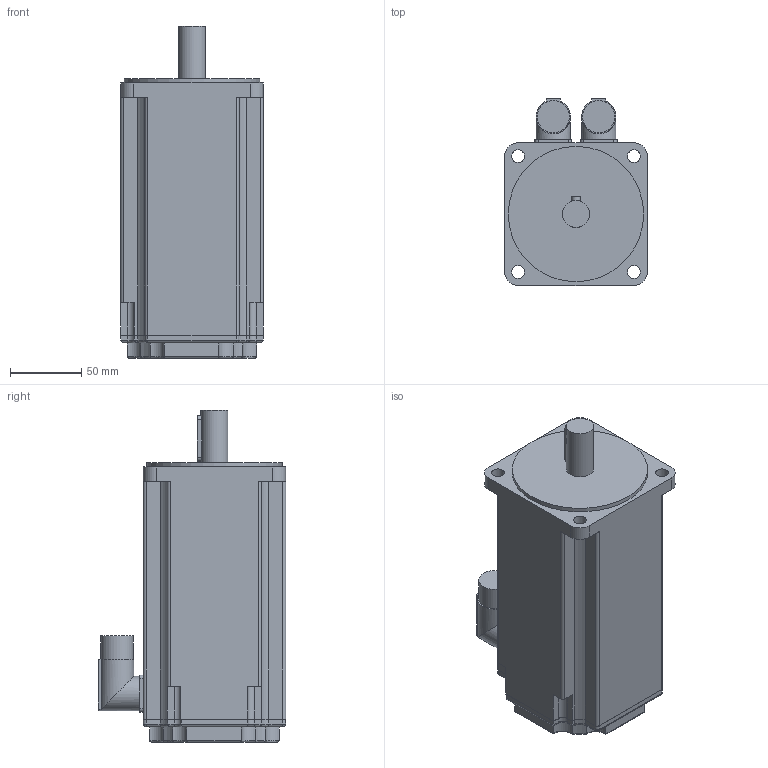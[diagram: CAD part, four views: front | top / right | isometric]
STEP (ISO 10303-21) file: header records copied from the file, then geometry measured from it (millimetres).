
FILE_DESCRIPTION(/* description */ (''),/* implementation_level */ '2;1');
FILE_NAME(/* name */ '\\Lafnas01\disegni\Archivi Lafert\3D\CAD 3D\MODELLI\Assiemi clienti\Serad\Modelli 3D Serad\B63Q\Encoder\Enc With Brake\B6304Qxx6BRx2033.ipt.stp',/* time_stamp */ '2015-09-07T10:50:54+02:00',/* author */ ('Pastrello Ylenia'),/* organization */ (''),/* preprocessor_version */ 'ST-DEVELOPER v15.6',/* originating_system */ 'Autodesk Inventor 2015',/* authorisation */ '');
FILE_SCHEMA (('AUTOMOTIVE_DESIGN { 1 0 10303 214 3 1 1 }'));
Length unit declared in the file: millimetre
Products named in the file (1): B6304Qxx6BRx2033
Bounding box: 100 x 131.5 x 233 mm (x, y, z)
Volume: 1774510.6 mm3; surface area: 105326.5 mm2
Topology: 1 solids, 1 shells, 195 faces, 500 edges, 318 vertices
Faces by surface type: cylinder 90, plane 81, torus 20, sphere 4
Full cylindrical faces by diameter (mm): 9 x4, 19 x1, 22.7 x2, 24 x2, 95 x1
Entity records: 6152 total; most frequent: CARTESIAN_POINT 1342, DIRECTION 1030, ORIENTED_EDGE 972, EDGE_CURVE 486, AXIS2_PLACEMENT_3D 374, VERTEX_POINT 314, LINE 282, VECTOR 282
